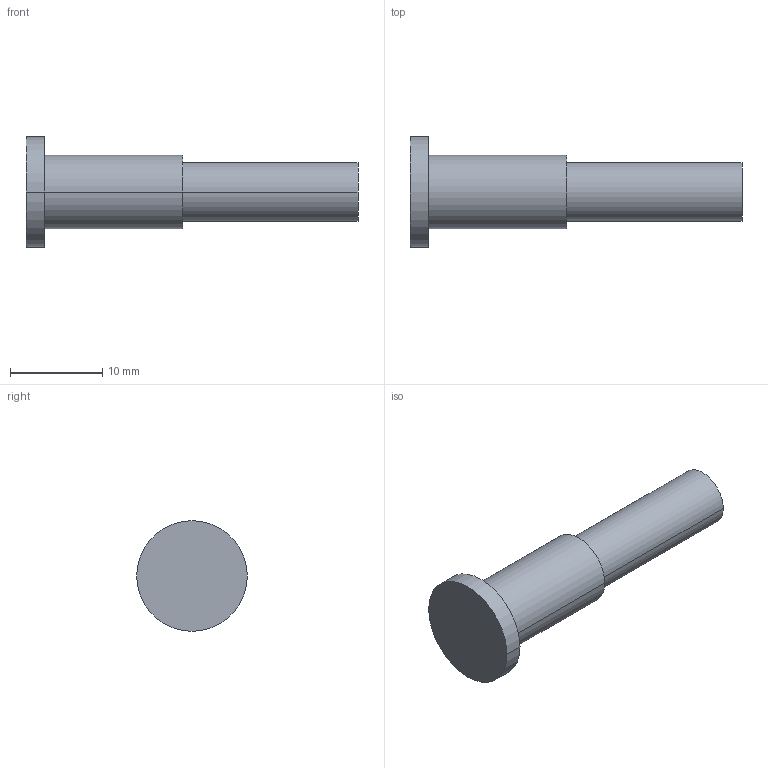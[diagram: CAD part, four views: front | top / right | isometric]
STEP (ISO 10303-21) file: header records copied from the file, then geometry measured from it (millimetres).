
FILE_DESCRIPTION(/* description */ ('VariCAD 2010-3.03 AP-214'),/* implementation_level */ '2;1');
FILE_NAME(/* name */ '0353-22-22',/* time_stamp */ '2011-06-29T09:17:55-06:00',/* author */ (''),/* organization */ (''),/* preprocessor_version */ 'ST-DEVELOPER v12',/* originating_system */ 'VariCAD 2010-3.03; kernel version (20100102)',/* authorisation */ '');
FILE_SCHEMA (('AUTOMOTIVE_DESIGN'));
Length unit declared in the file: millimetre
Products named in the file (1): Part
Bounding box: 36 x 12 x 12 mm (x, y, z)
Volume: 1581.9 mm3; surface area: 1057.6 mm2
Topology: 1 solids, 1 shells, 10 faces, 18 edges, 12 vertices
Faces by surface type: cylinder 6, plane 4
Entity records: 281 total; most frequent: DIRECTION 54, CARTESIAN_POINT 42, ORIENTED_EDGE 36, AXIS2_PLACEMENT_3D 24, EDGE_CURVE 18, EDGE_LOOP 12, CIRCLE 12, VERTEX_POINT 12
